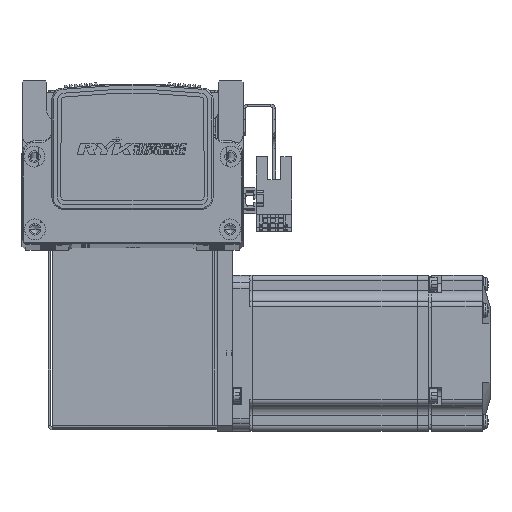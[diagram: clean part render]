
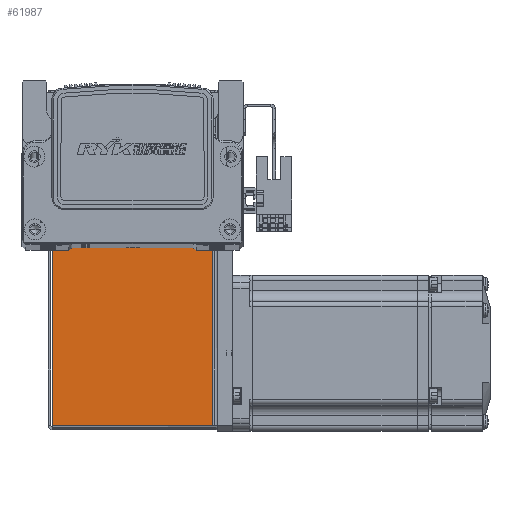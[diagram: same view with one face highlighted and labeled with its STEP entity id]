
A CAD part, top view. The second image highlights one B-rep face of the part: STEP entity #61987.
In plain terms, the highlighted planar face has unit normal (0, 0, 1).
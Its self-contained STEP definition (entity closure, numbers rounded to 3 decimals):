
#7913 = LINE ( 'NONE', #51151, #7916 ) ;
#7916 = VECTOR ( 'NONE', #51135, 1000. ) ;
#8089 = VECTOR ( 'NONE', #51271, 1000. ) ;
#8232 = LINE ( 'NONE', #51269, #8089 ) ;
#8299 = LINE ( 'NONE', #51438, #8311 ) ;
#8311 = VECTOR ( 'NONE', #51552, 1000. ) ;
#8437 = LINE ( 'NONE', #51606, #8518 ) ;
#8518 = VECTOR ( 'NONE', #51629, 1000. ) ;
#10371 = VERTEX_POINT ( 'NONE', #25947 ) ;
#10428 = VERTEX_POINT ( 'NONE', #26137 ) ;
#10450 = VERTEX_POINT ( 'NONE', #26254 ) ;
#10551 = VERTEX_POINT ( 'NONE', #26547 ) ;
#13832 = EDGE_LOOP ( 'NONE', ( #63386, #63300, #63302, #63293 ) ) ;
#25947 = CARTESIAN_POINT ( 'NONE',  ( -30.793, 0.737, 35. ) ) ;
#26137 = CARTESIAN_POINT ( 'NONE',  ( 30.763, 0.737, 35. ) ) ;
#26254 = CARTESIAN_POINT ( 'NONE',  ( 30.763, 72.5, 35. ) ) ;
#26547 = CARTESIAN_POINT ( 'NONE',  ( -30.793, 72.5, 35. ) ) ;
#27115 = EDGE_CURVE ( 'NONE', #10428, #10450, #7913, .T. ) ;
#27164 = EDGE_CURVE ( 'NONE', #10428, #10371, #8232, .T. ) ;
#27199 = EDGE_CURVE ( 'NONE', #10371, #10551, #8299, .T. ) ;
#27212 = EDGE_CURVE ( 'NONE', #10450, #10551, #8437, .T. ) ;
#29813 = PLANE ( 'NONE',  #33803 ) ;
#29839 = CARTESIAN_POINT ( 'NONE',  ( 0., 0., 35. ) ) ;
#29840 = DIRECTION ( 'NONE',  ( 0., 0., -1. ) ) ;
#29851 = DIRECTION ( 'NONE',  ( -1., 0., 0. ) ) ;
#33803 = AXIS2_PLACEMENT_3D ( 'NONE', #29839, #29840, #29851 ) ;
#49421 = FACE_OUTER_BOUND ( 'NONE', #13832, .T. ) ;
#51135 = DIRECTION ( 'NONE',  ( 0., 1., 0. ) ) ;
#51151 = CARTESIAN_POINT ( 'NONE',  ( 30.763, 0.737, 35. ) ) ;
#51269 = CARTESIAN_POINT ( 'NONE',  ( -32.5, 0.737, 35. ) ) ;
#51271 = DIRECTION ( 'NONE',  ( -1., 0., 0. ) ) ;
#51438 = CARTESIAN_POINT ( 'NONE',  ( -30.793, 0., 35. ) ) ;
#51552 = DIRECTION ( 'NONE',  ( 0., 1., 0. ) ) ;
#51606 = CARTESIAN_POINT ( 'NONE',  ( 0., 72.5, 35. ) ) ;
#51629 = DIRECTION ( 'NONE',  ( -1., 0., 0. ) ) ;
#61987 = ADVANCED_FACE ( 'NONE', ( #49421 ), #29813, .F. ) ;
#63293 = ORIENTED_EDGE ( 'NONE', *, *, #27164, .F. ) ;
#63300 = ORIENTED_EDGE ( 'NONE', *, *, #27212, .T. ) ;
#63302 = ORIENTED_EDGE ( 'NONE', *, *, #27199, .F. ) ;
#63386 = ORIENTED_EDGE ( 'NONE', *, *, #27115, .T. ) ;
